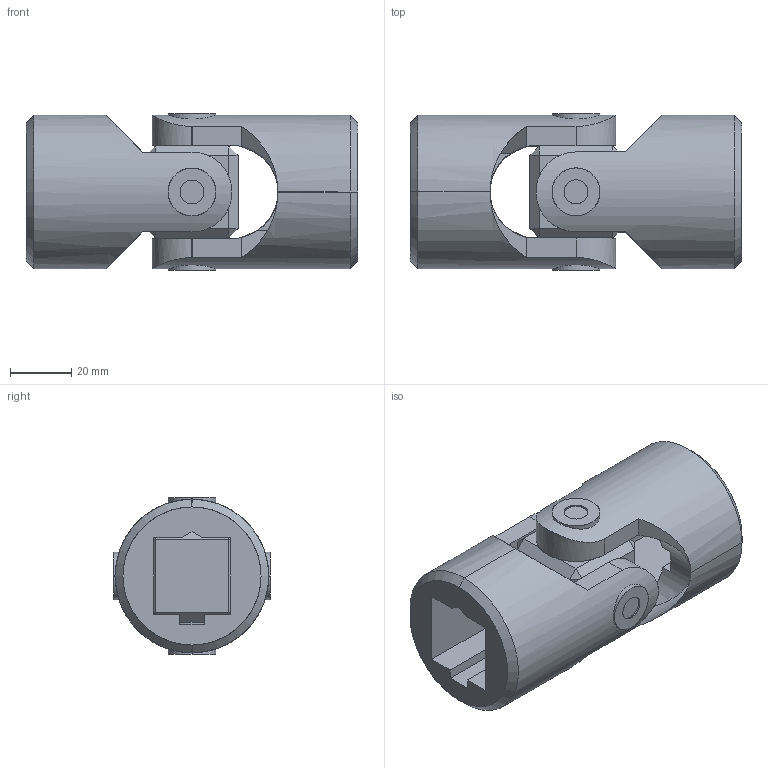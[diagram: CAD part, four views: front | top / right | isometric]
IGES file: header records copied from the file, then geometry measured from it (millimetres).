
Start section: SolidWorks IGES file using analytic representation for surfaces
Global section: file name: C:\Users\IanO\Desktop\R3690_v2\R3690_v2_20231020_IGES\Default.igs; native system: SolidWorks 2019; preprocessor: SolidWorks 2019; author: IanO; date: 231020.152140; units: millimetre
Bounding box: 108 x 51 x 51 mm (x, y, z)
Surface area: 41145.4 mm2 (no closed solid volume)
Topology: 0 solids, 0 shells, 122 faces, 2220 edges, 2220 vertices
Faces by surface type: bspline 78, revolution 44
